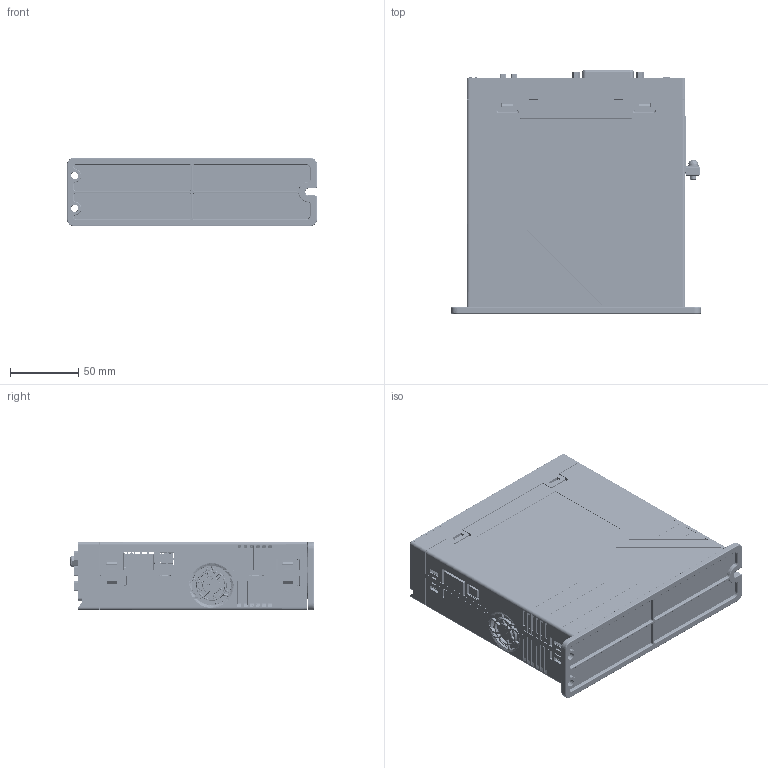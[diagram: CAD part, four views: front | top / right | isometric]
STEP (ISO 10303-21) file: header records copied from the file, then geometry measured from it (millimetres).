
FILE_DESCRIPTION((''),'2;1');
FILE_NAME('BD3E-AP_B_SW0001','2025-01-22T17:14:53',('wuyh130'),(''),'CREO PARAMETRIC BY PTC INC, 2021063','CREO PARAMETRIC BY PTC INC, 2021063','');
FILE_SCHEMA(('AUTOMOTIVE_DESIGN { 1 0 10303 214 1 1 1 1 }'));
Products named in the file (1): BD3E-AP_B_SW0001
Bounding box: 183 x 178.45 x 50 mm (x, y, z)
Surface area: 309617.1 mm2 (no closed solid volume)
Topology: 0 solids, 299 shells, 8263 faces, 28449 edges, 19978 vertices
Faces by surface type: plane 4718, cylinder 2146, bspline 610, cone 424, torus 176, extrusion 106, sphere 79, revolution 4
Entity records: 406115 total; most frequent: CARTESIAN_POINT 127786, ORIENTED_EDGE 47303, DIRECTION 44332, EDGE_CURVE 28421, VERTEX_POINT 19980, VECTOR 19651, LINE 19545, AXIS2_PLACEMENT_3D 12337
